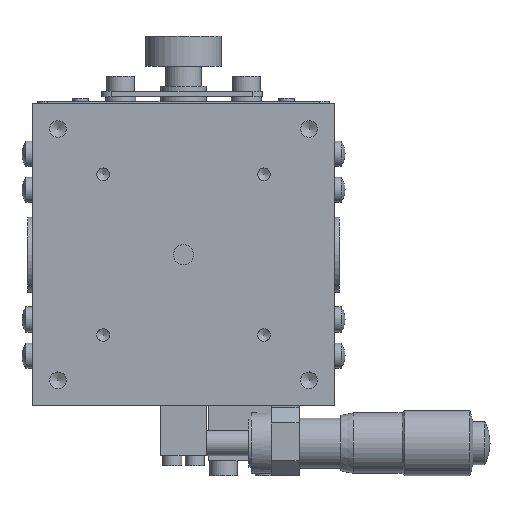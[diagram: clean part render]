
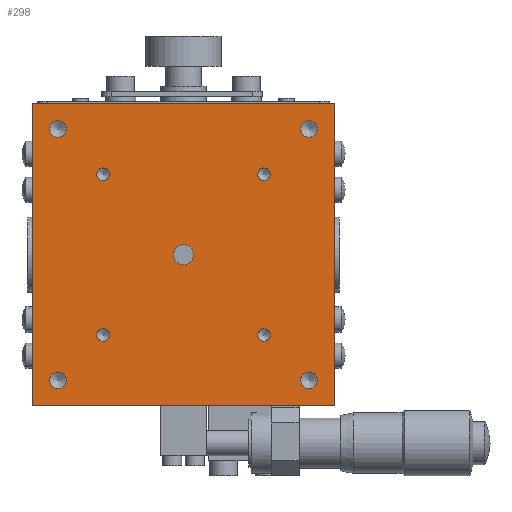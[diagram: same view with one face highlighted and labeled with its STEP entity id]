
A CAD part, top view. The second image highlights one B-rep face of the part: STEP entity #298.
In plain terms, the highlighted planar face has unit normal (0, 0, 1).
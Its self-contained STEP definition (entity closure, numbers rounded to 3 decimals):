
#298 = ADVANCED_FACE( '', ( #714, #715, #716, #717, #718, #719, #720, #721, #722, #723 ), #724, .T. );
#714 = FACE_BOUND( '', #1282, .T. );
#715 = FACE_BOUND( '', #1283, .T. );
#716 = FACE_BOUND( '', #1284, .T. );
#717 = FACE_BOUND( '', #1285, .T. );
#718 = FACE_BOUND( '', #1286, .T. );
#719 = FACE_BOUND( '', #1287, .T. );
#720 = FACE_BOUND( '', #1288, .T. );
#721 = FACE_BOUND( '', #1289, .T. );
#722 = FACE_OUTER_BOUND( '', #1290, .T. );
#723 = FACE_BOUND( '', #1291, .T. );
#724 = PLANE( '', #1292 );
#1282 = EDGE_LOOP( '', ( #2461 ) );
#1283 = EDGE_LOOP( '', ( #2462 ) );
#1284 = EDGE_LOOP( '', ( #2463 ) );
#1285 = EDGE_LOOP( '', ( #2464 ) );
#1286 = EDGE_LOOP( '', ( #2465 ) );
#1287 = EDGE_LOOP( '', ( #2466 ) );
#1288 = EDGE_LOOP( '', ( #2467 ) );
#1289 = EDGE_LOOP( '', ( #2468 ) );
#1290 = EDGE_LOOP( '', ( #2469, #2470, #2471, #2472 ) );
#1291 = EDGE_LOOP( '', ( #2473 ) );
#1292 = AXIS2_PLACEMENT_3D( '', #2474, #2475, #2476 );
#2461 = ORIENTED_EDGE( '', *, *, #3280, .T. );
#2462 = ORIENTED_EDGE( '', *, *, #3322, .T. );
#2463 = ORIENTED_EDGE( '', *, *, #3323, .T. );
#2464 = ORIENTED_EDGE( '', *, *, #3324, .T. );
#2465 = ORIENTED_EDGE( '', *, *, #3325, .T. );
#2466 = ORIENTED_EDGE( '', *, *, #3326, .T. );
#2467 = ORIENTED_EDGE( '', *, *, #3327, .T. );
#2468 = ORIENTED_EDGE( '', *, *, #3328, .T. );
#2469 = ORIENTED_EDGE( '', *, *, #3282, .F. );
#2470 = ORIENTED_EDGE( '', *, *, #3329, .T. );
#2471 = ORIENTED_EDGE( '', *, *, #3312, .T. );
#2472 = ORIENTED_EDGE( '', *, *, #3330, .T. );
#2473 = ORIENTED_EDGE( '', *, *, #3331, .T. );
#2474 = CARTESIAN_POINT( '', ( 0., 0., 25. ) );
#2475 = DIRECTION( '', ( 0., 0., 1. ) );
#2476 = DIRECTION( '', ( -1., 0., 0. ) );
#3280 = EDGE_CURVE( '', #3885, #3885, #3886, .T. );
#3282 = EDGE_CURVE( '', #3887, #3890, #3891, .T. );
#3312 = EDGE_CURVE( '', #3948, #3946, #3949, .T. );
#3322 = EDGE_CURVE( '', #3963, #3963, #3964, .T. );
#3323 = EDGE_CURVE( '', #3965, #3965, #3966, .T. );
#3324 = EDGE_CURVE( '', #3967, #3967, #3968, .T. );
#3325 = EDGE_CURVE( '', #3969, #3969, #3970, .T. );
#3326 = EDGE_CURVE( '', #3971, #3971, #3972, .T. );
#3327 = EDGE_CURVE( '', #3973, #3973, #3974, .T. );
#3328 = EDGE_CURVE( '', #3975, #3975, #3976, .T. );
#3329 = EDGE_CURVE( '', #3887, #3948, #3977, .T. );
#3330 = EDGE_CURVE( '', #3946, #3890, #3978, .T. );
#3331 = EDGE_CURVE( '', #3979, #3979, #3980, .T. );
#3885 = VERTEX_POINT( '', #5010 );
#3886 = CIRCLE( '', #5011, 1.25 );
#3887 = VERTEX_POINT( '', #5012 );
#3890 = VERTEX_POINT( '', #5016 );
#3891 = LINE( '', #5017, #5018 );
#3946 = VERTEX_POINT( '', #5087 );
#3948 = VERTEX_POINT( '', #5090 );
#3949 = LINE( '', #5091, #5092 );
#3963 = VERTEX_POINT( '', #5110 );
#3964 = CIRCLE( '', #5111, 1.25 );
#3965 = VERTEX_POINT( '', #5112 );
#3966 = CIRCLE( '', #5113, 1.25 );
#3967 = VERTEX_POINT( '', #5114 );
#3968 = CIRCLE( '', #5115, 1.25 );
#3969 = VERTEX_POINT( '', #5116 );
#3970 = CIRCLE( '', #5117, 1.65 );
#3971 = VERTEX_POINT( '', #5118 );
#3972 = CIRCLE( '', #5119, 1.65 );
#3973 = VERTEX_POINT( '', #5120 );
#3974 = CIRCLE( '', #5121, 1.65 );
#3975 = VERTEX_POINT( '', #5122 );
#3976 = CIRCLE( '', #5123, 1.65 );
#3977 = LINE( '', #5124, #5125 );
#3978 = LINE( '', #5126, #5127 );
#3979 = VERTEX_POINT( '', #5128 );
#3980 = CIRCLE( '', #5129, 2. );
#5010 = CARTESIAN_POINT( '', ( 16., -17.25, 25. ) );
#5011 = AXIS2_PLACEMENT_3D( '', #5827, #5828, #5829 );
#5012 = CARTESIAN_POINT( '', ( 30., -30., 25. ) );
#5016 = CARTESIAN_POINT( '', ( -30., -30., 25. ) );
#5017 = CARTESIAN_POINT( '', ( 0., -30., 25. ) );
#5018 = VECTOR( '', #5831, 1000. );
#5087 = CARTESIAN_POINT( '', ( -30., 30., 25. ) );
#5090 = CARTESIAN_POINT( '', ( 30., 30., 25. ) );
#5091 = CARTESIAN_POINT( '', ( 0., 30., 25. ) );
#5092 = VECTOR( '', #5889, 1000. );
#5110 = CARTESIAN_POINT( '', ( 16., 14.75, 25. ) );
#5111 = AXIS2_PLACEMENT_3D( '', #5906, #5907, #5908 );
#5112 = CARTESIAN_POINT( '', ( -16., 14.75, 25. ) );
#5113 = AXIS2_PLACEMENT_3D( '', #5909, #5910, #5911 );
#5114 = CARTESIAN_POINT( '', ( -16., -17.25, 25. ) );
#5115 = AXIS2_PLACEMENT_3D( '', #5912, #5913, #5914 );
#5116 = CARTESIAN_POINT( '', ( -25., 23.35, 25. ) );
#5117 = AXIS2_PLACEMENT_3D( '', #5915, #5916, #5917 );
#5118 = CARTESIAN_POINT( '', ( 25., 23.35, 25. ) );
#5119 = AXIS2_PLACEMENT_3D( '', #5918, #5919, #5920 );
#5120 = CARTESIAN_POINT( '', ( 25., -26.65, 25. ) );
#5121 = AXIS2_PLACEMENT_3D( '', #5921, #5922, #5923 );
#5122 = CARTESIAN_POINT( '', ( -25., -26.65, 25. ) );
#5123 = AXIS2_PLACEMENT_3D( '', #5924, #5925, #5926 );
#5124 = CARTESIAN_POINT( '', ( 30., -30., 25. ) );
#5125 = VECTOR( '', #5927, 1000. );
#5126 = CARTESIAN_POINT( '', ( -30., 30., 25. ) );
#5127 = VECTOR( '', #5928, 1000. );
#5128 = CARTESIAN_POINT( '', ( 0., 2., 25. ) );
#5129 = AXIS2_PLACEMENT_3D( '', #5929, #5930, #5931 );
#5827 = CARTESIAN_POINT( '', ( 16., -16., 25. ) );
#5828 = DIRECTION( '', ( 0., 0., -1. ) );
#5829 = DIRECTION( '', ( 0., -1., 0. ) );
#5831 = DIRECTION( '', ( -1., 0., 0. ) );
#5889 = DIRECTION( '', ( -1., 0., 0. ) );
#5906 = CARTESIAN_POINT( '', ( 16., 16., 25. ) );
#5907 = DIRECTION( '', ( 0., 0., -1. ) );
#5908 = DIRECTION( '', ( 0., -1., 0. ) );
#5909 = CARTESIAN_POINT( '', ( -16., 16., 25. ) );
#5910 = DIRECTION( '', ( 0., 0., -1. ) );
#5911 = DIRECTION( '', ( 0., -1., 0. ) );
#5912 = CARTESIAN_POINT( '', ( -16., -16., 25. ) );
#5913 = DIRECTION( '', ( 0., 0., -1. ) );
#5914 = DIRECTION( '', ( 0., -1., 0. ) );
#5915 = CARTESIAN_POINT( '', ( -25., 25., 25. ) );
#5916 = DIRECTION( '', ( 0., 0., -1. ) );
#5917 = DIRECTION( '', ( 0., -1., 0. ) );
#5918 = CARTESIAN_POINT( '', ( 25., 25., 25. ) );
#5919 = DIRECTION( '', ( 0., 0., -1. ) );
#5920 = DIRECTION( '', ( 0., -1., 0. ) );
#5921 = CARTESIAN_POINT( '', ( 25., -25., 25. ) );
#5922 = DIRECTION( '', ( 0., 0., -1. ) );
#5923 = DIRECTION( '', ( 0., -1., 0. ) );
#5924 = CARTESIAN_POINT( '', ( -25., -25., 25. ) );
#5925 = DIRECTION( '', ( 0., 0., -1. ) );
#5926 = DIRECTION( '', ( 0., -1., 0. ) );
#5927 = DIRECTION( '', ( 0., 1., 0. ) );
#5928 = DIRECTION( '', ( 0., -1., 0. ) );
#5929 = CARTESIAN_POINT( '', ( 0., 0., 25. ) );
#5930 = DIRECTION( '', ( 0., 0., -1. ) );
#5931 = DIRECTION( '', ( 0., 1., 0. ) );
